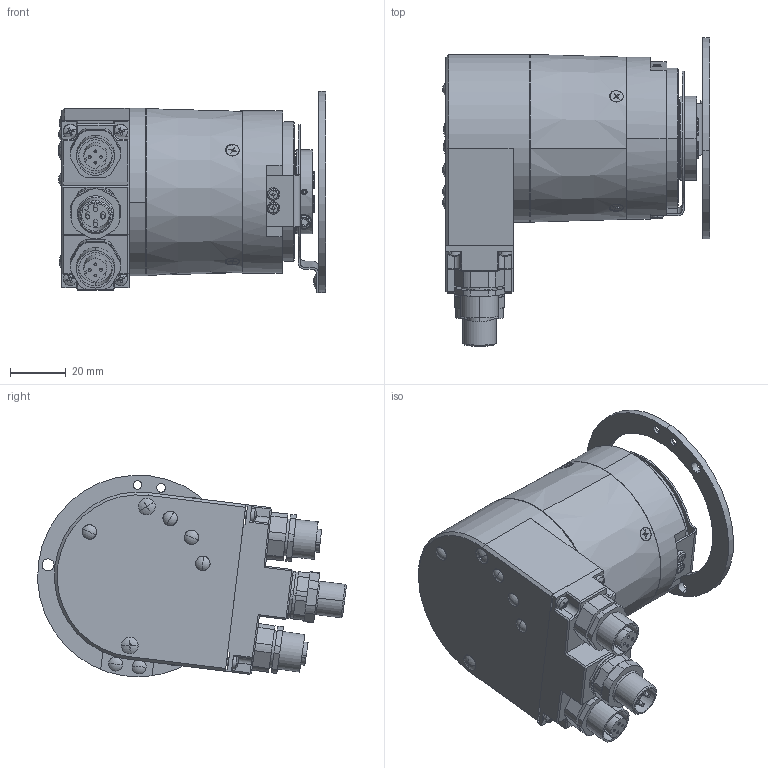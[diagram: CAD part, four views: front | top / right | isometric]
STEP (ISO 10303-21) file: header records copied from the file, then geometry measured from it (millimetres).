
FILE_DESCRIPTION (( 'STEP AP214' ), '1' );
FILE_NAME ('5888.34B2.XXXX.STEP', '2009-01-09T07:59:02', ( 'admin' ), ( 'Fritz Kübler GmbH' ), 'SwSTEP 2.0', 'SolidWorks 2008', '' );
FILE_SCHEMA (( 'AUTOMOTIVE_DESIGN' ));
Length unit declared in the file: millimetre
Products named in the file (1): 5888.34B2.XXXX
Bounding box: 95.4 x 110.27 x 71.93 mm (x, y, z)
Volume: 124619.7 mm3; surface area: 87275.1 mm2
Topology: 33 solids, 34 shells, 2553 faces, 6763 edges, 4353 vertices
Faces by surface type: cylinder 1098, plane 976, cone 345, torus 93, sphere 24, bspline 17
Entity records: 111825 total; most frequent: CARTESIAN_POINT 19227, DIRECTION 13823, ORIENTED_EDGE 13438, EDGE_CURVE 6719, AXIS2_PLACEMENT_3D 5379, VERTEX_POINT 4353, LINE 3065, VECTOR 3065
